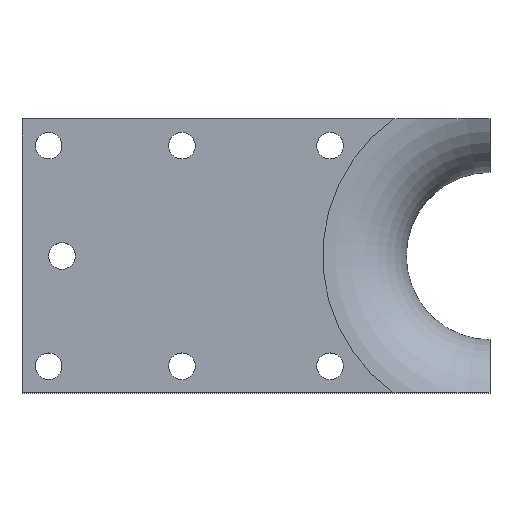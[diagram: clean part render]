
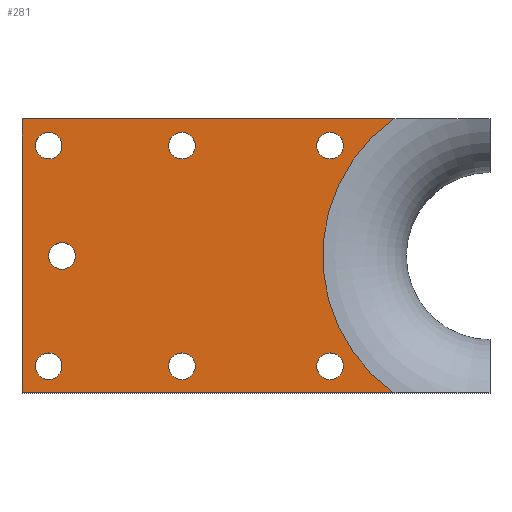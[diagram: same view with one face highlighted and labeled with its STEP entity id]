
A CAD part, top view. The second image highlights one B-rep face of the part: STEP entity #281.
In plain terms, the highlighted planar face has unit normal (0, 0, 1).
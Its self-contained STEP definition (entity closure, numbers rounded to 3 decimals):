
#22=FACE_BOUND('',#110,.T.);
#23=FACE_BOUND('',#111,.T.);
#24=FACE_BOUND('',#112,.T.);
#25=FACE_BOUND('',#113,.T.);
#26=FACE_BOUND('',#114,.T.);
#27=FACE_BOUND('',#115,.T.);
#28=FACE_BOUND('',#116,.T.);
#46=LINE('',#441,#58);
#48=LINE('',#481,#60);
#53=LINE('',#489,#65);
#58=VECTOR('',#335,139.573);
#60=VECTOR('',#383,139.573);
#65=VECTOR('',#390,102.8);
#72=PLANE('',#316);
#87=FACE_OUTER_BOUND('',#109,.T.);
#109=EDGE_LOOP('',(#243,#244,#245,#246));
#110=EDGE_LOOP('',(#247));
#111=EDGE_LOOP('',(#248));
#112=EDGE_LOOP('',(#249));
#113=EDGE_LOOP('',(#250));
#114=EDGE_LOOP('',(#251));
#115=EDGE_LOOP('',(#252));
#116=EDGE_LOOP('',(#253));
#125=CIRCLE('',#286,62.769);
#129=CIRCLE('',#293,5.);
#131=CIRCLE('',#296,5.);
#133=CIRCLE('',#299,5.);
#135=CIRCLE('',#302,5.);
#137=CIRCLE('',#305,5.);
#139=CIRCLE('',#308,5.);
#141=CIRCLE('',#311,5.);
#146=VERTEX_POINT('',#401);
#147=VERTEX_POINT('',#414);
#153=VERTEX_POINT('',#439);
#154=VERTEX_POINT('',#445);
#156=VERTEX_POINT('',#450);
#158=VERTEX_POINT('',#455);
#160=VERTEX_POINT('',#460);
#162=VERTEX_POINT('',#465);
#164=VERTEX_POINT('',#470);
#166=VERTEX_POINT('',#475);
#168=VERTEX_POINT('',#480);
#172=EDGE_CURVE('',#146,#147,#125,.T.);
#180=EDGE_CURVE('',#146,#153,#46,.T.);
#182=EDGE_CURVE('',#154,#154,#129,.T.);
#184=EDGE_CURVE('',#156,#156,#131,.T.);
#186=EDGE_CURVE('',#158,#158,#133,.T.);
#188=EDGE_CURVE('',#160,#160,#135,.T.);
#190=EDGE_CURVE('',#162,#162,#137,.T.);
#192=EDGE_CURVE('',#164,#164,#139,.T.);
#194=EDGE_CURVE('',#166,#166,#141,.T.);
#196=EDGE_CURVE('',#168,#147,#48,.T.);
#201=EDGE_CURVE('',#153,#168,#53,.T.);
#243=ORIENTED_EDGE('',*,*,#172,.F.);
#244=ORIENTED_EDGE('',*,*,#180,.T.);
#245=ORIENTED_EDGE('',*,*,#201,.T.);
#246=ORIENTED_EDGE('',*,*,#196,.T.);
#247=ORIENTED_EDGE('',*,*,#182,.T.);
#248=ORIENTED_EDGE('',*,*,#184,.T.);
#249=ORIENTED_EDGE('',*,*,#186,.T.);
#250=ORIENTED_EDGE('',*,*,#188,.T.);
#251=ORIENTED_EDGE('',*,*,#190,.T.);
#252=ORIENTED_EDGE('',*,*,#192,.T.);
#253=ORIENTED_EDGE('',*,*,#194,.T.);
#281=ADVANCED_FACE('',(#87,#22,#23,#24,#25,#26,#27,#28),#72,.T.);
#286=AXIS2_PLACEMENT_3D('',#415,#322,#323);
#293=AXIS2_PLACEMENT_3D('',#446,#341,#342);
#296=AXIS2_PLACEMENT_3D('',#451,#347,#348);
#299=AXIS2_PLACEMENT_3D('',#456,#353,#354);
#302=AXIS2_PLACEMENT_3D('',#461,#359,#360);
#305=AXIS2_PLACEMENT_3D('',#466,#365,#366);
#308=AXIS2_PLACEMENT_3D('',#471,#371,#372);
#311=AXIS2_PLACEMENT_3D('',#476,#377,#378);
#316=AXIS2_PLACEMENT_3D('',#492,#394,#395);
#322=DIRECTION('center_axis',(0.,0.,1.));
#323=DIRECTION('ref_axis',(1.,0.,0.));
#335=DIRECTION('',(-1.,0.,0.));
#341=DIRECTION('center_axis',(0.,0.,-1.));
#342=DIRECTION('ref_axis',(-1.,0.,0.));
#347=DIRECTION('center_axis',(0.,0.,-1.));
#348=DIRECTION('ref_axis',(-1.,0.,0.));
#353=DIRECTION('center_axis',(0.,0.,-1.));
#354=DIRECTION('ref_axis',(-1.,0.,0.));
#359=DIRECTION('center_axis',(0.,0.,-1.));
#360=DIRECTION('ref_axis',(-1.,0.,0.));
#365=DIRECTION('center_axis',(0.,0.,-1.));
#366=DIRECTION('ref_axis',(-1.,0.,0.));
#371=DIRECTION('center_axis',(0.,0.,-1.));
#372=DIRECTION('ref_axis',(-1.,0.,0.));
#377=DIRECTION('center_axis',(0.,0.,-1.));
#378=DIRECTION('ref_axis',(-1.,0.,0.));
#383=DIRECTION('',(1.,0.,0.));
#390=DIRECTION('',(0.,-1.,0.));
#394=DIRECTION('center_axis',(0.,0.,1.));
#395=DIRECTION('ref_axis',(1.,0.,0.));
#401=CARTESIAN_POINT('',(56.106,-96.713,30.));
#414=CARTESIAN_POINT('',(56.106,-199.513,30.));
#415=CARTESIAN_POINT('Origin',(92.133,-148.113,30.));
#439=CARTESIAN_POINT('',(-83.467,-96.713,30.));
#441=CARTESIAN_POINT('',(92.133,-96.713,30.));
#445=CARTESIAN_POINT('',(-18.467,-189.513,30.));
#446=CARTESIAN_POINT('Origin',(-23.467,-189.513,30.));
#450=CARTESIAN_POINT('',(-18.467,-106.713,30.));
#451=CARTESIAN_POINT('Origin',(-23.467,-106.713,30.));
#455=CARTESIAN_POINT('',(-68.467,-189.513,30.));
#456=CARTESIAN_POINT('Origin',(-73.467,-189.513,30.));
#460=CARTESIAN_POINT('',(37.133,-189.513,30.));
#461=CARTESIAN_POINT('Origin',(32.133,-189.513,30.));
#465=CARTESIAN_POINT('',(37.133,-106.713,30.));
#466=CARTESIAN_POINT('Origin',(32.133,-106.713,30.));
#470=CARTESIAN_POINT('',(-68.467,-106.713,30.));
#471=CARTESIAN_POINT('Origin',(-73.467,-106.713,30.));
#475=CARTESIAN_POINT('',(-63.467,-148.113,30.));
#476=CARTESIAN_POINT('Origin',(-68.467,-148.113,30.));
#480=CARTESIAN_POINT('',(-83.467,-199.513,30.));
#481=CARTESIAN_POINT('',(-83.467,-199.513,30.));
#489=CARTESIAN_POINT('',(-83.467,-96.713,30.));
#492=CARTESIAN_POINT('Origin',(3.458,-148.113,30.));
